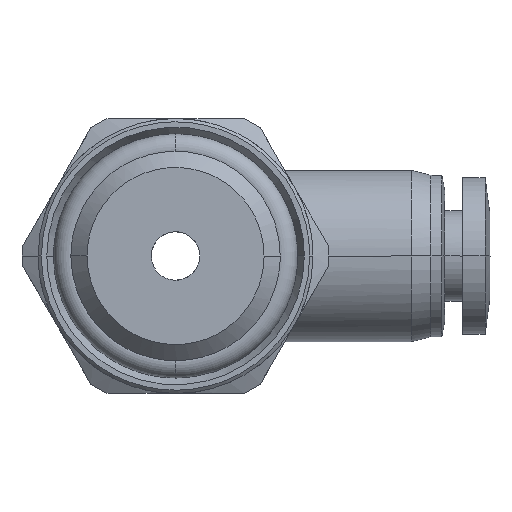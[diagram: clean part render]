
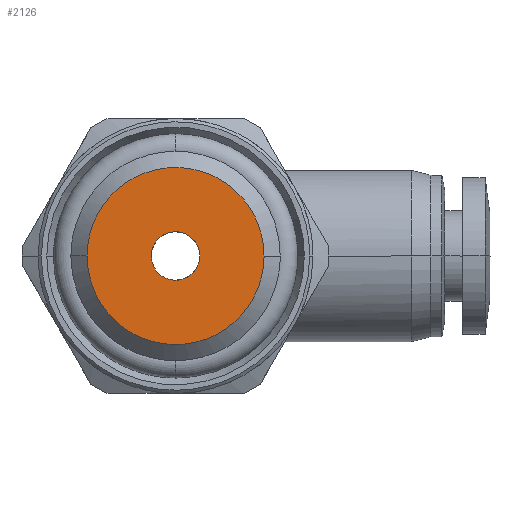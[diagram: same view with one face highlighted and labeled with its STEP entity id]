
A CAD part, front view. The second image highlights one B-rep face of the part: STEP entity #2126.
In plain terms, the highlighted planar face has unit normal (0, -1, 0).
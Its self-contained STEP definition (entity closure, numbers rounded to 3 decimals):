
#37 = CARTESIAN_POINT ( 'NONE',  ( -3.363, -12., 4.379 ) ) ;
#64 = CARTESIAN_POINT ( 'NONE',  ( 0.199, -12., -1.5 ) ) ;
#67 = CARTESIAN_POINT ( 'NONE',  ( 2.759, -12., 4.783 ) ) ;
#96 = CARTESIAN_POINT ( 'NONE',  ( -5.475, -12., 0. ) ) ;
#241 = CARTESIAN_POINT ( 'NONE',  ( 5.475, -12., 0. ) ) ;
#312 = ORIENTED_EDGE ( 'NONE', *, *, #3368, .T. ) ;
#400 = CARTESIAN_POINT ( 'NONE',  ( -4.379, -12., 3.364 ) ) ;
#448 = EDGE_CURVE ( 'NONE', #5142, #3025, #4786, .T. ) ;
#464 = CARTESIAN_POINT ( 'NONE',  ( 1.31, -12., 0.758 ) ) ;
#531 = CARTESIAN_POINT ( 'NONE',  ( 1.201, -12., -0.92 ) ) ;
#557 = CARTESIAN_POINT ( 'NONE',  ( -1.462, -12., -0.391 ) ) ;
#673 = CARTESIAN_POINT ( 'NONE',  ( 4.783, -12., -2.759 ) ) ;
#853 = CARTESIAN_POINT ( 'NONE',  ( 1.5, -12., 0. ) ) ;
#881 = CARTESIAN_POINT ( 'NONE',  ( -1.5, -12., 0. ) ) ;
#892 = CARTESIAN_POINT ( 'NONE',  ( 1.432, -12., 5.333 ) ) ;
#908 = CARTESIAN_POINT ( 'NONE',  ( -1.462, -12., 0.391 ) ) ;
#938 = CARTESIAN_POINT ( 'NONE',  ( 0.757, -12., 1.31 ) ) ;
#1035 = CARTESIAN_POINT ( 'NONE',  ( -1.5, -12., -0.199 ) ) ;
#1061 = CARTESIAN_POINT ( 'NONE',  ( 0.757, -12., -1.31 ) ) ;
#1091 = CARTESIAN_POINT ( 'NONE',  ( 0.718, -12., -5.475 ) ) ;
#1094 = CARTESIAN_POINT ( 'NONE',  ( -0.391, -12., -1.462 ) ) ;
#1119 = CARTESIAN_POINT ( 'NONE',  ( 4.379, -12., -3.364 ) ) ;
#1293 = CARTESIAN_POINT ( 'NONE',  ( 0.718, -12., 5.475 ) ) ;
#1306 = CARTESIAN_POINT ( 'NONE',  ( 1.5, -12., 0.199 ) ) ;
#1321 = CARTESIAN_POINT ( 'NONE',  ( 5.333, -12., 1.432 ) ) ;
#1355 = DIRECTION ( 'NONE',  ( 0., -1., 0. ) ) ;
#1374 = AXIS2_PLACEMENT_3D ( 'NONE', #3175, #1355, #5332 ) ;
#1377 = CARTESIAN_POINT ( 'NONE',  ( -5.475, -12., 0.719 ) ) ;
#1435 = CARTESIAN_POINT ( 'NONE',  ( -0.92, -12., -1.201 ) ) ;
#1466 = CARTESIAN_POINT ( 'NONE',  ( -4.379, -12., -3.363 ) ) ;
#1489 = CARTESIAN_POINT ( 'NONE',  ( 1.5, -12., 0. ) ) ;
#1519 = CARTESIAN_POINT ( 'NONE',  ( -1.31, -12., -0.757 ) ) ;
#1685 = CARTESIAN_POINT ( 'NONE',  ( 1.5, -12., 0. ) ) ;
#1855 = CARTESIAN_POINT ( 'NONE',  ( -4.783, -12., 2.759 ) ) ;
#1882 = CARTESIAN_POINT ( 'NONE',  ( -1.201, -12., -0.92 ) ) ;
#1912 = CARTESIAN_POINT ( 'NONE',  ( -5.475, -12., -0.719 ) ) ;
#2126 = ADVANCED_FACE ( 'NONE', ( #4964, #5830 ), #4541, .T. ) ;
#2255 = CARTESIAN_POINT ( 'NONE',  ( 5.475, -12., 0. ) ) ;
#2294 = CARTESIAN_POINT ( 'NONE',  ( -1.5, -12., 0.199 ) ) ;
#2365 = CARTESIAN_POINT ( 'NONE',  ( 0.391, -12., -1.462 ) ) ;
#2410 = EDGE_LOOP ( 'NONE', ( #4507, #312 ) ) ;
#2502 = CARTESIAN_POINT ( 'NONE',  ( 5.333, -12., -1.432 ) ) ;
#2695 = VERTEX_POINT ( 'NONE', #4409 ) ;
#2712 = CARTESIAN_POINT ( 'NONE',  ( -0.757, -12., 1.31 ) ) ;
#2748 = EDGE_CURVE ( 'NONE', #3025, #5142, #4208, .T. ) ;
#2753 = CARTESIAN_POINT ( 'NONE',  ( -2.759, -12., 4.783 ) ) ;
#2781 = CARTESIAN_POINT ( 'NONE',  ( -5.333, -12., 1.432 ) ) ;
#2862 = CARTESIAN_POINT ( 'NONE',  ( -1.5, -12., 0. ) ) ;
#2920 = CARTESIAN_POINT ( 'NONE',  ( 1.432, -12., -5.333 ) ) ;
#3025 = VERTEX_POINT ( 'NONE', #3796 ) ;
#3115 = CARTESIAN_POINT ( 'NONE',  ( -5.475, -12., 0. ) ) ;
#3146 = B_SPLINE_CURVE_WITH_KNOTS ( 'NONE', 3,
 ( #2255, #5049, #1321, #4985, #5386, #4508, #67, #892, #1293, #4535, #5466, #2753, #37, #400, #1855, #2781, #1377, #3115 ),
 .UNSPECIFIED., .F., .F.,
 ( 4, 2, 2, 2, 2, 2, 2, 2, 4 ),
 ( 0.5, 0.563, 0.625, 0.688, 0.75, 0.813, 0.875, 0.938, 1. ),
 .UNSPECIFIED. ) ;
#3175 = CARTESIAN_POINT ( 'NONE',  ( -2.737, -12., 0. ) ) ;
#3231 = ORIENTED_EDGE ( 'NONE', *, *, #2748, .T. ) ;
#3279 = B_SPLINE_CURVE_WITH_KNOTS ( 'NONE', 3,
 ( #96, #1912, #3732, #5558, #1466, #3287, #5111, #3399, #4757, #1091, #2920, #3839, #5221, #1119, #673, #2502, #4314, #241 ),
 .UNSPECIFIED., .F., .F.,
 ( 4, 2, 2, 2, 2, 2, 2, 2, 4 ),
 ( 0., 0.062, 0.125, 0.187, 0.25, 0.312, 0.375, 0.437, 0.5 ),
 .UNSPECIFIED. ) ;
#3287 = CARTESIAN_POINT ( 'NONE',  ( -3.364, -12., -4.379 ) ) ;
#3313 = CARTESIAN_POINT ( 'NONE',  ( -0.757, -12., -1.31 ) ) ;
#3368 = EDGE_CURVE ( 'NONE', #2695, #3677, #3146, .T. ) ;
#3399 = CARTESIAN_POINT ( 'NONE',  ( -1.432, -12., -5.333 ) ) ;
#3517 = EDGE_CURVE ( 'NONE', #3677, #2695, #3279, .T. ) ;
#3580 = CARTESIAN_POINT ( 'NONE',  ( 0.199, -12., 1.5 ) ) ;
#3631 = CARTESIAN_POINT ( 'NONE',  ( -1.31, -12., 0.757 ) ) ;
#3677 = VERTEX_POINT ( 'NONE', #4185 ) ;
#3701 = CARTESIAN_POINT ( 'NONE',  ( 1.31, -12., -0.757 ) ) ;
#3732 = CARTESIAN_POINT ( 'NONE',  ( -5.333, -12., -1.432 ) ) ;
#3796 = CARTESIAN_POINT ( 'NONE',  ( -1.5, -12., 0. ) ) ;
#3839 = CARTESIAN_POINT ( 'NONE',  ( 2.759, -12., -4.783 ) ) ;
#3967 = ORIENTED_EDGE ( 'NONE', *, *, #448, .T. ) ;
#4018 = CARTESIAN_POINT ( 'NONE',  ( -0.391, -12., 1.462 ) ) ;
#4185 = CARTESIAN_POINT ( 'NONE',  ( -5.475, -12., 0. ) ) ;
#4208 = B_SPLINE_CURVE_WITH_KNOTS ( 'NONE', 3,
 ( #881, #2294, #908, #3631, #4549, #5486, #2712, #4018, #4918, #3580, #5366, #938, #5400, #4495, #464, #4578, #1306, #853 ),
 .UNSPECIFIED., .F., .F.,
 ( 4, 2, 2, 2, 2, 2, 2, 2, 4 ),
 ( 0.5, 0.563, 0.625, 0.688, 0.75, 0.813, 0.875, 0.938, 1. ),
 .UNSPECIFIED. ) ;
#4314 = CARTESIAN_POINT ( 'NONE',  ( 5.475, -12., -0.718 ) ) ;
#4409 = CARTESIAN_POINT ( 'NONE',  ( 5.475, -12., 0. ) ) ;
#4495 = CARTESIAN_POINT ( 'NONE',  ( 1.201, -12., 0.92 ) ) ;
#4507 = ORIENTED_EDGE ( 'NONE', *, *, #3517, .T. ) ;
#4508 = CARTESIAN_POINT ( 'NONE',  ( 3.364, -12., 4.379 ) ) ;
#4535 = CARTESIAN_POINT ( 'NONE',  ( -0.718, -12., 5.475 ) ) ;
#4541 = PLANE ( 'NONE',  #1374 ) ;
#4549 = CARTESIAN_POINT ( 'NONE',  ( -1.201, -12., 0.92 ) ) ;
#4578 = CARTESIAN_POINT ( 'NONE',  ( 1.462, -12., 0.39 ) ) ;
#4644 = CARTESIAN_POINT ( 'NONE',  ( -0.199, -12., -1.5 ) ) ;
#4671 = CARTESIAN_POINT ( 'NONE',  ( 1.462, -12., -0.391 ) ) ;
#4757 = CARTESIAN_POINT ( 'NONE',  ( -0.718, -12., -5.475 ) ) ;
#4786 = B_SPLINE_CURVE_WITH_KNOTS ( 'NONE', 3,
 ( #1489, #5108, #4671, #3701, #531, #5163, #1061, #2365, #64, #4644, #1094, #3313, #1435, #1882, #1519, #557, #1035, #2862 ),
 .UNSPECIFIED., .F., .F.,
 ( 4, 2, 2, 2, 2, 2, 2, 2, 4 ),
 ( 0., 0.063, 0.125, 0.188, 0.25, 0.313, 0.375, 0.438, 0.5 ),
 .UNSPECIFIED. ) ;
#4918 = CARTESIAN_POINT ( 'NONE',  ( -0.199, -12., 1.5 ) ) ;
#4964 = FACE_BOUND ( 'NONE', #5302, .T. ) ;
#4985 = CARTESIAN_POINT ( 'NONE',  ( 4.783, -12., 2.759 ) ) ;
#5049 = CARTESIAN_POINT ( 'NONE',  ( 5.475, -12., 0.718 ) ) ;
#5108 = CARTESIAN_POINT ( 'NONE',  ( 1.5, -12., -0.199 ) ) ;
#5111 = CARTESIAN_POINT ( 'NONE',  ( -2.759, -12., -4.783 ) ) ;
#5142 = VERTEX_POINT ( 'NONE', #1685 ) ;
#5163 = CARTESIAN_POINT ( 'NONE',  ( 0.92, -12., -1.201 ) ) ;
#5221 = CARTESIAN_POINT ( 'NONE',  ( 3.363, -12., -4.379 ) ) ;
#5302 = EDGE_LOOP ( 'NONE', ( #3231, #3967 ) ) ;
#5332 = DIRECTION ( 'NONE',  ( 0., 0., -1. ) ) ;
#5366 = CARTESIAN_POINT ( 'NONE',  ( 0.391, -12., 1.462 ) ) ;
#5386 = CARTESIAN_POINT ( 'NONE',  ( 4.379, -12., 3.363 ) ) ;
#5400 = CARTESIAN_POINT ( 'NONE',  ( 0.92, -12., 1.201 ) ) ;
#5466 = CARTESIAN_POINT ( 'NONE',  ( -1.432, -12., 5.333 ) ) ;
#5486 = CARTESIAN_POINT ( 'NONE',  ( -0.92, -12., 1.201 ) ) ;
#5558 = CARTESIAN_POINT ( 'NONE',  ( -4.783, -12., -2.759 ) ) ;
#5830 = FACE_OUTER_BOUND ( 'NONE', #2410, .T. ) ;
